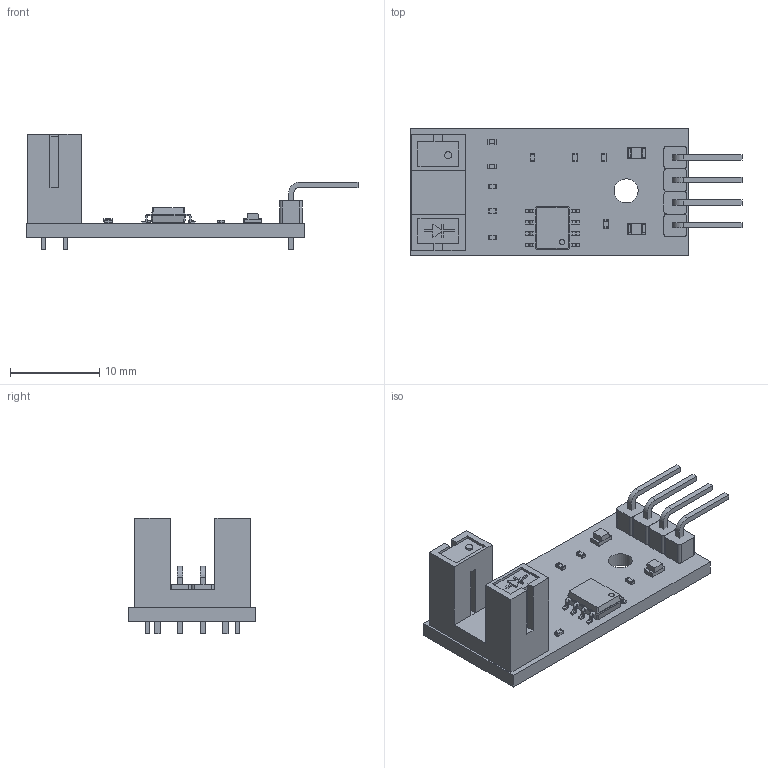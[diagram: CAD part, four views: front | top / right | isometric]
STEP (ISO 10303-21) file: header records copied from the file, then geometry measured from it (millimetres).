
FILE_DESCRIPTION(('KiCad electronic assembly'),'2;1');
FILE_NAME('techTaco.step','2024-08-05T20:58:09',('Pcbnew'),('Kicad'), 'Open CASCADE STEP processor 7.8','KiCad to STEP converter','Unknown' );
FILE_SCHEMA(('AUTOMOTIVE_DESIGN { 1 0 10303 214 1 1 1 1 }'));
Length unit declared in the file: millimetre
Products named in the file (14): techTaco 1; C_0402_1005Metric; pinhead_h4; Unnamed1; R_0402_1005Metric; photo_inter_5mm; Corps001; SOIC-8_3.9x4.9mm_P1.27mm; SOIC_8_39x49mm_P127mm; LED_0805_2012Metric; techTaco_PCB
Assembly tree (21 placements, depth 3):
  techTaco 1
    C_0402_1005Metric  x2
      C_0402_1005Metric
    pinhead_h4
      Unnamed1
    R_0402_1005Metric  x7
      R_0402_1005Metric
    photo_inter_5mm
      Corps001
    SOIC-8_3.9x4.9mm_P1.27mm
      SOIC_8_39x49mm_P127mm
    LED_0805_2012Metric  x2
      LED_0805_2012Metric
    techTaco_PCB
Bounding box: 37.25 x 14.25 x 13 mm (x, y, z)
Volume: 1332.6 mm3; surface area: 2102.6 mm2
Topology: 22 solids, 22 shells, 668 faces, 1725 edges, 1114 vertices
Faces by surface type: plane 473, cylinder 163, bspline 32
Full cylindrical faces by diameter (mm): 0.6 x1, 0.788 x1, 0.8 x4, 1 x4, 2.7 x1
Entity records: 15343 total; most frequent: CARTESIAN_POINT 2412, ORIENTED_EDGE 2224, DIRECTION 2118, EDGE_CURVE 1112, LINE 890, VECTOR 890, VERTEX_POINT 716, AXIS2_PLACEMENT_3D 614
